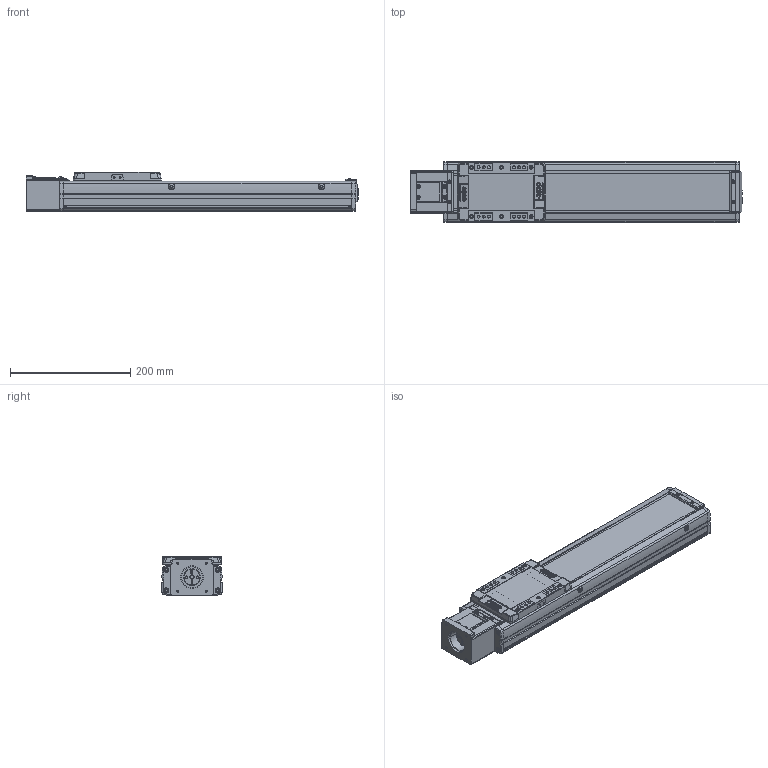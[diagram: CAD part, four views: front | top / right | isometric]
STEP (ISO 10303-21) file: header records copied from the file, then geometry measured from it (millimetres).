
FILE_DESCRIPTION(('STEP AP214'),'1');
FILE_NAME('Z:/Web/3D/SAN100/SAN100 양산용 (STEP)/SAN100ㅁㅁ-350S.stp','2013-04-25T06:52:11',(' '),(' '),'Spatial InterOp 3D',' ',' ');
FILE_SCHEMA(('automotive_design'));
Length unit declared in the file: millimetre
Products named in the file (40): SUS COVER; SFX-SAN100; RRCV-SAN100; 스크루 : Round - M4.0 x 10.0; M3.0 x 6.0; 스크루 : Round - M3.0 x 6.0; FRBL-SAN100; SLBL-SAN100; SLCV-SAN100; 스크루 : Countersunk - M3.0 x 6.0; BASE; 스크루 : Round - M5.0 x 6.0; MTHZ-SAN100-S56A; SDA26C-8-6.35; SSFX-SAN65; CPLCV-SAN65; FRCV-SAN100
Bounding box: 552.5 x 100 x 66 mm (x, y, z)
Volume: 1616808.5 mm3; surface area: 418982.8 mm2
Topology: 40 solids, 41 shells, 2392 faces, 6302 edges, 4077 vertices
Faces by surface type: plane 1139, cylinder 923, cone 213, sphere 52, torus 45, bspline 20
Entity records: 95890 total; most frequent: CARTESIAN_POINT 15169, DIRECTION 13338, ORIENTED_EDGE 12440, EDGE_CURVE 6220, AXIS2_PLACEMENT_3D 4881, VERTEX_POINT 4077, LINE 3576, VECTOR 3576
